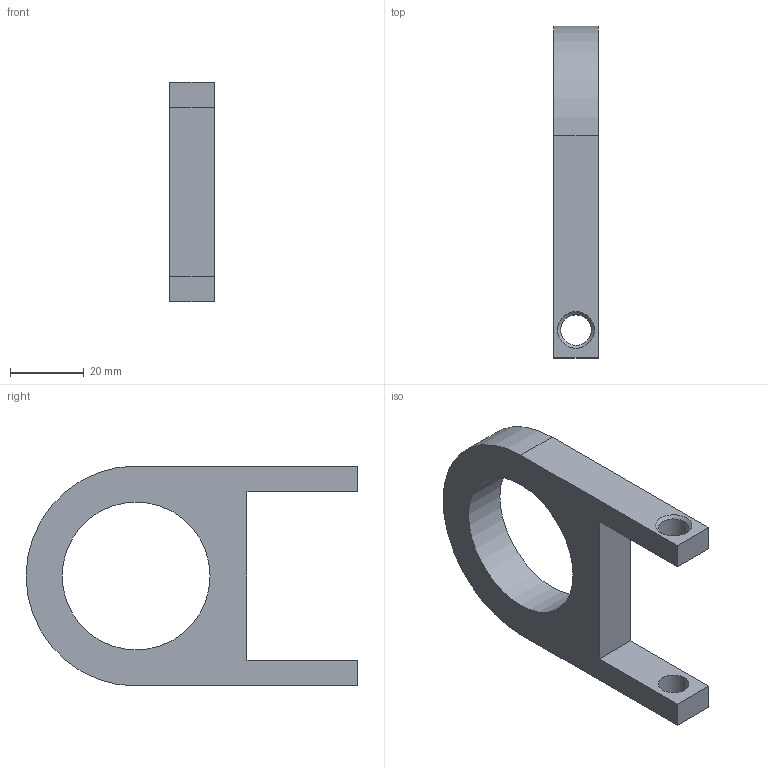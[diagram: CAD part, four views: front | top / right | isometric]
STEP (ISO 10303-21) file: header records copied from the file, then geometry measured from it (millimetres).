
FILE_DESCRIPTION(/* description */ (''),/* implementation_level */ '2;1');
FILE_NAME(/* name */ 'WHEELS-INSERT.26.stp',/* time_stamp */ '2018-05-25T14:29:13+02:00',/* author */ (''),/* organization */ (''),/* preprocessor_version */ 'ST-DEVELOPER v16.7',/* originating_system */ 'SIEMENS PLM Software NX 12.0',/* authorisation */ '');
FILE_SCHEMA (('AP203_CONFIGURATION_CONTROLLED_3D_DESIGN_OF_MECHANICAL_PARTS_AND_ASSEMBLIES_MIM_LF { 1 0 10303 403 2 1 2}'));
Length unit declared in the file: millimetre
Products named in the file (1): turc66A81BAD9zhs
Bounding box: 12 x 89.75 x 59.5 mm (x, y, z)
Volume: 27288.1 mm3; surface area: 10306.6 mm2
Topology: 1 solids, 1 shells, 15 faces, 41 edges, 28 vertices
Faces by surface type: plane 9, cylinder 4, cone 2
Full cylindrical faces by diameter (mm): 8.3 x2, 40 x1
Entity records: 534 total; most frequent: DIRECTION 74, CARTESIAN_POINT 72, ORIENTED_EDGE 64, EDGE_CURVE 32, EDGE_LOOP 26, AXIS2_PLACEMENT_3D 26, VERTEX_POINT 24, FACE_BOUND 22
